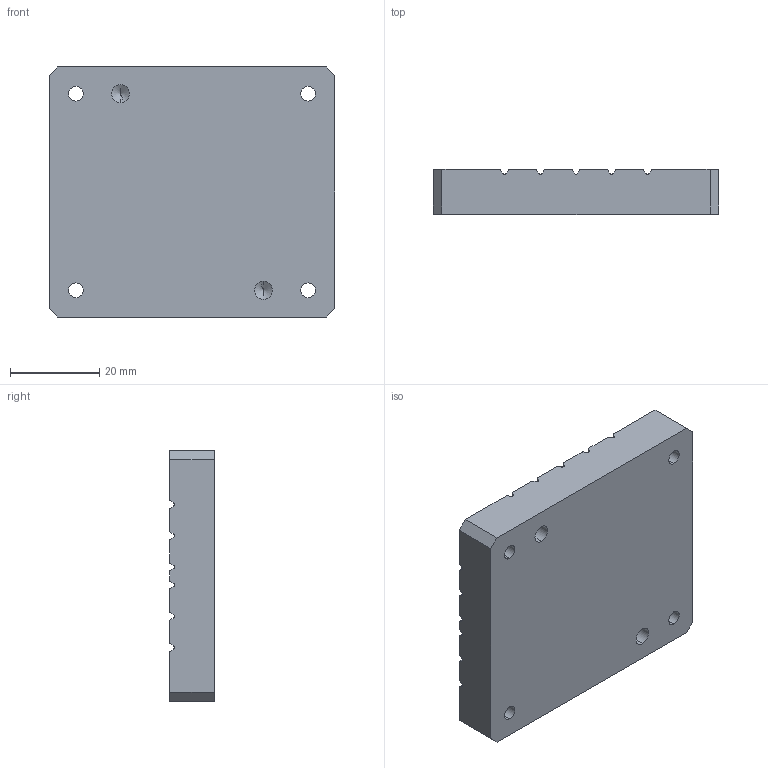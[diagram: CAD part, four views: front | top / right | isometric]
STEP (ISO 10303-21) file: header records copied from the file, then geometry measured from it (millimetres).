
FILE_DESCRIPTION (( 'STEP AP203' ), '1' );
FILE_NAME ('FB-011-10B菜啣B.STEP', '2025-03-24T03:06:23', ( 'Windows 蚚誧' ), ( 'Organization' ), 'SwSTEP 2.0', 'SolidWorks 2020', '' );
FILE_SCHEMA (( 'CONFIG_CONTROL_DESIGN' ));
Length unit declared in the file: millimetre
Products named in the file (1): FB-011-10B菜啣B
Bounding box: 64 x 10 x 56 mm (x, y, z)
Volume: 34507 mm3; surface area: 10576.4 mm2
Topology: 1 solids, 1 shells, 421 faces, 984 edges, 563 vertices
Faces by surface type: cylinder 224, plane 193, cone 4
Entity records: 11548 total; most frequent: CARTESIAN_POINT 2685, ORIENTED_EDGE 1960, DIRECTION 1673, EDGE_CURVE 980, VECTOR 651, LINE 651, VERTEX_POINT 563, AXIS2_PLACEMENT_3D 511
